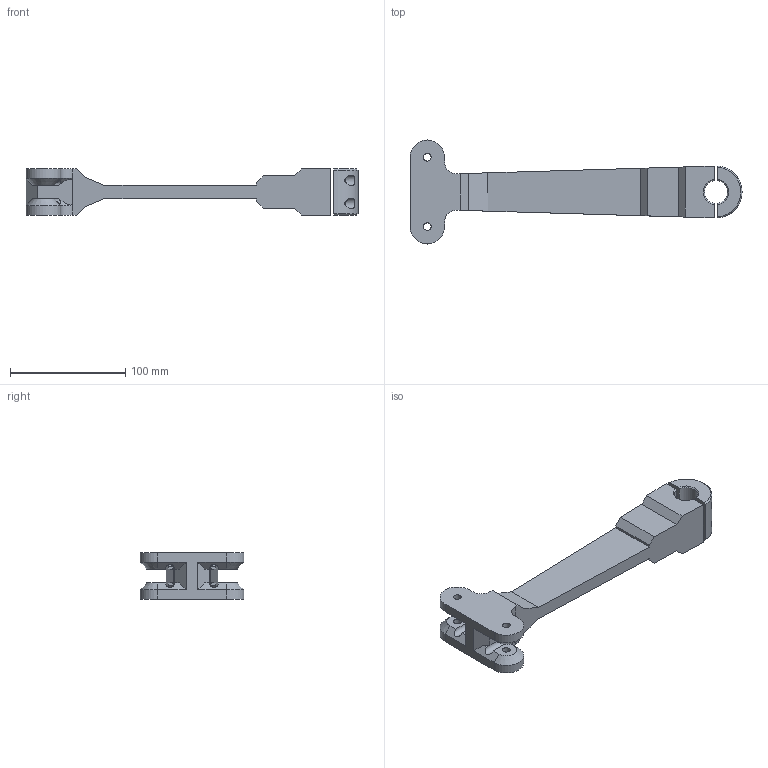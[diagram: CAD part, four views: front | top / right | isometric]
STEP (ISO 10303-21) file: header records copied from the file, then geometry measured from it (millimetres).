
FILE_DESCRIPTION( ( 'Unknown' ), '1' );
FILE_NAME( 'F:/navkite transat/construction/2016/3D ET ASSEMBLAGES/AMI/AMI 03.stp', 'Unknown', ( 'GMA' ), ( 'Unknown' ), 'XStep 1.0', 'Unknown', ' ' );
FILE_SCHEMA( ( 'automotive_design' ) );
Length unit declared in the file: millimetre
Products named in the file (2): 1; 2
Bounding box: 287.5 x 90 x 40 mm (x, y, z)
Volume: 270403.5 mm3; surface area: 52204.3 mm2
Topology: 2 solids, 2 shells, 110 faces, 286 edges, 188 vertices
Faces by surface type: plane 61, cylinder 35, cone 14
Full cylindrical faces by diameter (mm): 4.134 x4, 5.2 x4, 6.647 x4, 9 x4
Entity records: 4749 total; most frequent: CARTESIAN_POINT 1266, ORIENTED_EDGE 516, DIRECTION 510, EDGE_CURVE 258, AXIS2_PLACEMENT_3D 180, VERTEX_POINT 176, EDGE_LOOP 150, LINE 150
